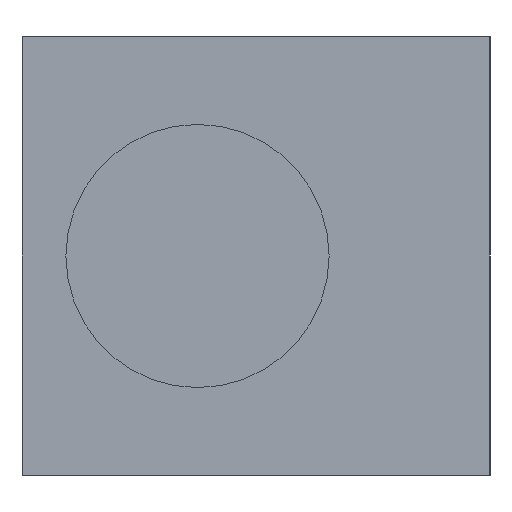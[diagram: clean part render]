
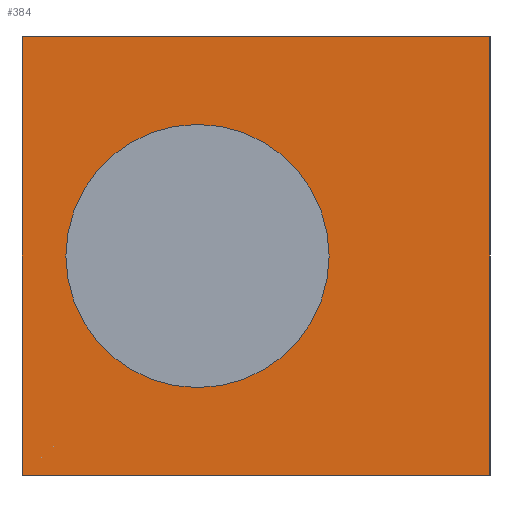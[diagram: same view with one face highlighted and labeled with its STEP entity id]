
A CAD part, left-side view. The second image highlights one B-rep face of the part: STEP entity #384.
In plain terms, the highlighted planar face has unit normal (-1, 0, 0).
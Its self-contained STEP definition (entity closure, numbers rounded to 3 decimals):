
#9=DIRECTION('',(0.,1.,0.));
#10=VECTOR('',#9,32.);
#11=CARTESIAN_POINT('',(-35.,0.,0.));
#12=LINE('',#11,#10);
#67=DIRECTION('',(0.,1.,0.));
#68=VECTOR('',#67,32.);
#69=CARTESIAN_POINT('',(-35.,0.,30.));
#70=LINE('',#69,#68);
#101=DIRECTION('',(0.,0.,1.));
#102=VECTOR('',#101,30.);
#103=CARTESIAN_POINT('',(-35.,0.,0.));
#104=LINE('',#103,#102);
#105=CARTESIAN_POINT('',(-35.,20.,15.));
#106=DIRECTION('',(-1.,0.,0.));
#107=DIRECTION('',(0.,-1.,0.));
#108=AXIS2_PLACEMENT_3D('',#105,#106,#107);
#110=CARTESIAN_POINT('',(-35.,20.,15.));
#111=DIRECTION('',(-1.,0.,0.));
#112=DIRECTION('',(0.,1.,0.));
#113=AXIS2_PLACEMENT_3D('',#110,#111,#112);
#115=DIRECTION('',(0.,0.,1.));
#116=VECTOR('',#115,30.);
#117=CARTESIAN_POINT('',(-35.,32.,0.));
#118=LINE('',#117,#116);
#209=CARTESIAN_POINT('',(-35.,0.,0.));
#210=CARTESIAN_POINT('',(-35.,32.,0.));
#211=VERTEX_POINT('',#209);
#212=VERTEX_POINT('',#210);
#215=CARTESIAN_POINT('',(-35.,0.,30.));
#216=CARTESIAN_POINT('',(-35.,32.,30.));
#217=VERTEX_POINT('',#215);
#218=VERTEX_POINT('',#216);
#221=CARTESIAN_POINT('',(-35.,16.,15.));
#223=VERTEX_POINT('',#221);
#225=CARTESIAN_POINT('',(-35.,24.,15.));
#227=VERTEX_POINT('',#225);
#367=CARTESIAN_POINT('',(-35.,0.,0.));
#368=DIRECTION('',(1.,0.,0.));
#369=DIRECTION('',(0.,1.,0.));
#370=AXIS2_PLACEMENT_3D('',#367,#368,#369);
#371=PLANE('',#370);
#372=ORIENTED_EDGE('',*,*,#250,.T.);
#374=ORIENTED_EDGE('',*,*,#373,.T.);
#375=ORIENTED_EDGE('',*,*,#313,.F.);
#377=ORIENTED_EDGE('',*,*,#376,.F.);
#378=EDGE_LOOP('',(#372,#374,#375,#377));
#379=FACE_OUTER_BOUND('',#378,.F.);
#380=ORIENTED_EDGE('',*,*,#349,.T.);
#381=ORIENTED_EDGE('',*,*,#360,.T.);
#382=EDGE_LOOP('',(#380,#381));
#383=FACE_BOUND('',#382,.F.);
#384=ADVANCED_FACE('',(#379,#383),#371,.F.);
#109=CIRCLE('',#108,4.);
#114=CIRCLE('',#113,4.);
#250=EDGE_CURVE('',#211,#212,#12,.T.);
#313=EDGE_CURVE('',#217,#218,#70,.T.);
#349=EDGE_CURVE('',#223,#227,#109,.T.);
#360=EDGE_CURVE('',#227,#223,#114,.T.);
#373=EDGE_CURVE('',#212,#218,#118,.T.);
#376=EDGE_CURVE('',#211,#217,#104,.T.);
